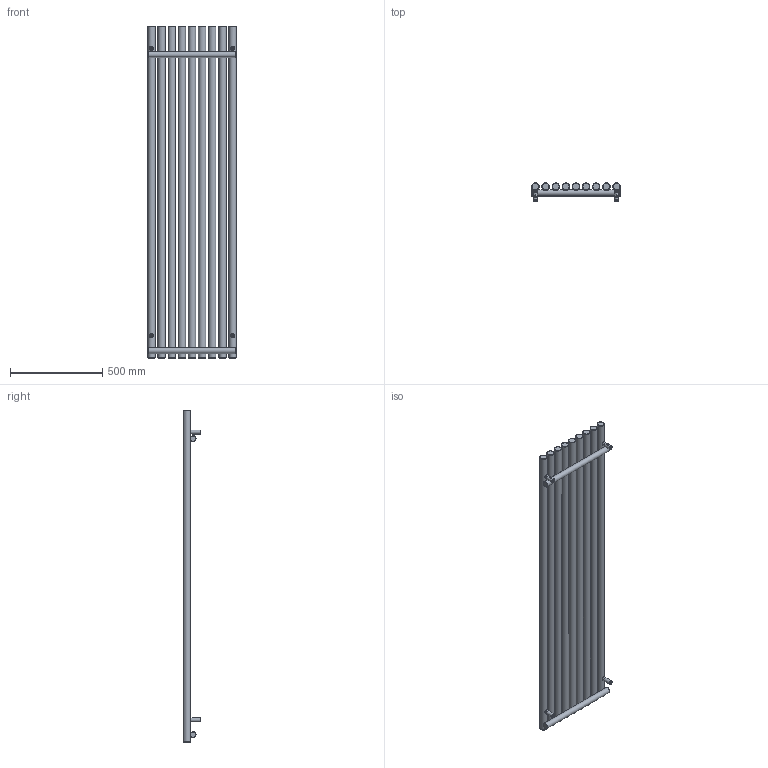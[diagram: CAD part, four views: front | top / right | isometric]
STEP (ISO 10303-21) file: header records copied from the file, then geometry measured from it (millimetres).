
FILE_DESCRIPTION(/* description */ (''),/* implementation_level */ '2;1');
FILE_NAME(/* name */ 'Z:\R\G\P\RGP116 - Grzejniki Geyser\Work\Inventor\Circolo (Rolo V, Rolo H)\ROLO-ROOM\Marketing\Bryły 3D\Zaokrąglone\WLROR180048-ES-CK-(Z).stp',/* time_stamp */ '2024-03-29T15:50:33+01:00',/* author */ ('NowAd'),/* organization */ (''),/* preprocessor_version */ 'ST-DEVELOPER v17.2',/* originating_system */ 'Autodesk Inventor 2019',/* authorisation */ '');
FILE_SCHEMA (('AUTOMOTIVE_DESIGN { 1 0 10303 214 3 1 1 }'));
Length unit declared in the file: millimetre
Products named in the file (3): WLROR180048-ES-CK-(Z); PGROR180048-ES-CK-(K); CK-V-fi40 marketing
Assembly tree (5 placements, depth 2):
  WLROR180048-ES-CK-(Z)
    PGROR180048-ES-CK-(K)
    CK-V-fi40 marketing  x4
Bounding box: 480 x 96.5 x 1800 mm (x, y, z)
Volume: 21168974.3 mm3; surface area: 2177933.1 mm2
Topology: 5 solids, 5 shells, 345 faces, 859 edges, 574 vertices
Faces by surface type: plane 140, cylinder 77, cone 60, torus 50, bspline 18
Full cylindrical faces by diameter (mm): 4.134 x4, 4.48 x4, 6.4 x4, 10 x4, 12 x4, 15.834 x4, 16 x4, 18.631 x2, 22 x4, 32 x2, 40 x9
Entity records: 9034 total; most frequent: CARTESIAN_POINT 5186, DIRECTION 800, ORIENTED_EDGE 756, EDGE_CURVE 378, AXIS2_PLACEMENT_3D 361, VERTEX_POINT 256, EDGE_LOOP 216, CIRCLE 201
